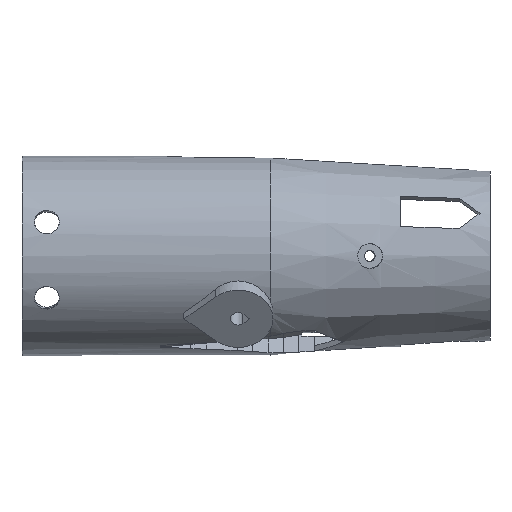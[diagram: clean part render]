
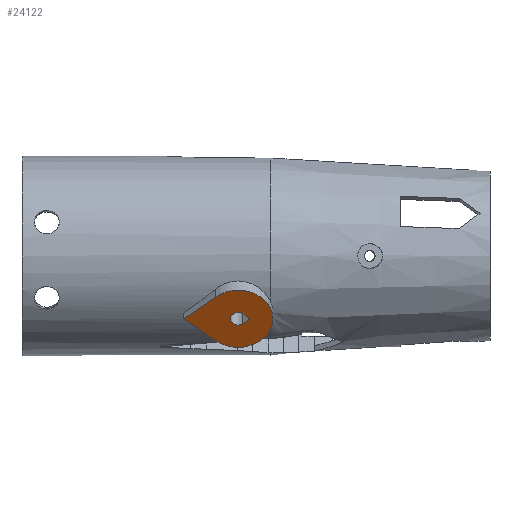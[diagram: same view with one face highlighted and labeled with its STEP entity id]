
A CAD part, front view. The second image highlights one B-rep face of the part: STEP entity #24122.
In plain terms, the highlighted planar face has unit normal (0, -0.819, -0.574).
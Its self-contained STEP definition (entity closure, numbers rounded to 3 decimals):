
#1912 = CYLINDRICAL_SURFACE('',#1913,7.);
#1913 = AXIS2_PLACEMENT_3D('',#1914,#1915,#1916);
#1914 = CARTESIAN_POINT('',(413.4,-9.83,-6.883));
#1915 = DIRECTION('',(-0.,-0.819,-0.574));
#1916 = DIRECTION('',(-0.,-0.574,0.819));
#1983 = PLANE('',#1984);
#1984 = AXIS2_PLACEMENT_3D('',#1985,#1986,#1987);
#1985 = CARTESIAN_POINT('',(408.9,-6.754,
    -11.275));
#1986 = DIRECTION('',(0.643,-0.439,0.628));
#1987 = DIRECTION('',(0.766,0.369,-0.527));
#2015 = PLANE('',#2016);
#2016 = AXIS2_PLACEMENT_3D('',#2017,#2018,#2019);
#2017 = CARTESIAN_POINT('',(402.51,-9.83,
    -6.883));
#2018 = DIRECTION('',(0.643,0.439,-0.628));
#2019 = DIRECTION('',(-0.766,0.369,-0.527));
#23985 = CYLINDRICAL_SURFACE('',#23986,1.525);
#23986 = AXIS2_PLACEMENT_3D('',#23987,#23988,#23989);
#23987 = CARTESIAN_POINT('',(413.4,-4.096,-2.868));
#23988 = DIRECTION('',(-0.,-0.819,-0.574));
#23989 = DIRECTION('',(-0.,-0.574,0.819));
#24013 = PLANE('',#24014);
#24014 = AXIS2_PLACEMENT_3D('',#24015,#24016,#24017);
#24015 = CARTESIAN_POINT('',(414.38,-3.426,
    -3.825));
#24016 = DIRECTION('',(0.643,0.439,-0.628));
#24017 = DIRECTION('',(-0.766,0.369,-0.527));
#24038 = PLANE('',#24039);
#24039 = AXIS2_PLACEMENT_3D('',#24040,#24041,#24042);
#24040 = CARTESIAN_POINT('',(415.772,-4.096,
    -2.868));
#24041 = DIRECTION('',(0.643,-0.439,0.628));
#24042 = DIRECTION('',(0.766,0.369,-0.527));
#24054 = VERTEX_POINT('',#24055);
#24055 = CARTESIAN_POINT('',(415.772,-18.021,
    -12.619));
#24076 = EDGE_CURVE('',#24054,#24077,#24079,.T.);
#24077 = VERTEX_POINT('',#24078);
#24078 = CARTESIAN_POINT('',(414.38,-18.691,
    -11.662));
#24079 = SURFACE_CURVE('',#24080,(#24084,#24090),.PCURVE_S1.);
#24080 = LINE('',#24081,#24082);
#24081 = CARTESIAN_POINT('',(415.076,-18.356,
    -12.14));
#24082 = VECTOR('',#24083,1.);
#24083 = DIRECTION('',(-0.766,-0.369,0.527));
#24084 = PCURVE('',#24038,#24085);
#24085 = DEFINITIONAL_REPRESENTATION('',(#24086),#24089);
#24086 = B_SPLINE_CURVE_WITH_KNOTS('',1,(#24087,#24088),.UNSPECIFIED.,
  .F.,.F.,(2,2),(-0.909,0.909),
  .PIECEWISE_BEZIER_KNOTS.);
#24087 = CARTESIAN_POINT('',(0.,-17.));
#24088 = CARTESIAN_POINT('',(-1.817,-17.));
#24089 = ( GEOMETRIC_REPRESENTATION_CONTEXT(2) 
PARAMETRIC_REPRESENTATION_CONTEXT() REPRESENTATION_CONTEXT('2D SPACE',''
  ) );
#24090 = PCURVE('',#24091,#24096);
#24091 = PLANE('',#24092);
#24092 = AXIS2_PLACEMENT_3D('',#24093,#24094,#24095);
#24093 = CARTESIAN_POINT('',(413.4,-18.021,-12.619));
#24094 = DIRECTION('',(-0.,-0.819,-0.574));
#24095 = DIRECTION('',(0.,0.574,-0.819));
#24096 = DEFINITIONAL_REPRESENTATION('',(#24097),#24101);
#24097 = LINE('',#24098,#24099);
#24098 = CARTESIAN_POINT('',(-0.584,1.676));
#24099 = VECTOR('',#24100,1.);
#24100 = DIRECTION('',(-0.643,-0.766));
#24101 = ( GEOMETRIC_REPRESENTATION_CONTEXT(2) 
PARAMETRIC_REPRESENTATION_CONTEXT() REPRESENTATION_CONTEXT('2D SPACE',''
  ) );
#24122 = ADVANCED_FACE('',(#24123,#24199),#24091,.T.);
#24123 = FACE_BOUND('',#24124,.F.);
#24124 = EDGE_LOOP('',(#24125,#24155,#24178));
#24125 = ORIENTED_EDGE('',*,*,#24126,.T.);
#24126 = EDGE_CURVE('',#24127,#24129,#24131,.T.);
#24127 = VERTEX_POINT('',#24128);
#24128 = CARTESIAN_POINT('',(408.9,-21.097,
    -8.226));
#24129 = VERTEX_POINT('',#24130);
#24130 = CARTESIAN_POINT('',(408.9,-14.946,
    -17.011));
#24131 = SURFACE_CURVE('',#24132,(#24137,#24148),.PCURVE_S1.);
#24132 = CIRCLE('',#24133,7.);
#24133 = AXIS2_PLACEMENT_3D('',#24134,#24135,#24136);
#24134 = CARTESIAN_POINT('',(413.4,-18.021,-12.619));
#24135 = DIRECTION('',(0.,0.819,0.574));
#24136 = DIRECTION('',(-0.643,-0.439,0.628));
#24137 = PCURVE('',#24091,#24138);
#24138 = DEFINITIONAL_REPRESENTATION('',(#24139),#24147);
#24139 = ( BOUNDED_CURVE() B_SPLINE_CURVE(2,(#24140,#24141,#24142,#24143
    ,#24144,#24145,#24146),.UNSPECIFIED.,.T.,.F.) 
B_SPLINE_CURVE_WITH_KNOTS((1,2,2,2,2,1),(-2.094,0.,
    2.094,4.189,6.283,8.378),
.UNSPECIFIED.) CURVE() GEOMETRIC_REPRESENTATION_ITEM() 
RATIONAL_B_SPLINE_CURVE((1.,0.5,1.,0.5,1.,0.5,1.)) REPRESENTATION_ITEM(
  '') );
#24140 = CARTESIAN_POINT('',(-5.362,-4.5));
#24141 = CARTESIAN_POINT('',(-13.156,4.788));
#24142 = CARTESIAN_POINT('',(-1.216,6.894));
#24143 = CARTESIAN_POINT('',(10.725,8.999));
#24144 = CARTESIAN_POINT('',(6.578,-2.394));
#24145 = CARTESIAN_POINT('',(2.431,-13.787));
#24146 = CARTESIAN_POINT('',(-5.362,-4.5));
#24147 = ( GEOMETRIC_REPRESENTATION_CONTEXT(2) 
PARAMETRIC_REPRESENTATION_CONTEXT() REPRESENTATION_CONTEXT('2D SPACE',''
  ) );
#24148 = PCURVE('',#1912,#24149);
#24149 = DEFINITIONAL_REPRESENTATION('',(#24150),#24154);
#24150 = LINE('',#24151,#24152);
#24151 = CARTESIAN_POINT('',(-5.585,10.));
#24152 = VECTOR('',#24153,1.);
#24153 = DIRECTION('',(-1.,0.));
#24154 = ( GEOMETRIC_REPRESENTATION_CONTEXT(2) 
PARAMETRIC_REPRESENTATION_CONTEXT() REPRESENTATION_CONTEXT('2D SPACE',''
  ) );
#24155 = ORIENTED_EDGE('',*,*,#24156,.T.);
#24156 = EDGE_CURVE('',#24129,#24157,#24159,.T.);
#24157 = VERTEX_POINT('',#24158);
#24158 = CARTESIAN_POINT('',(402.51,-18.021,
    -12.619));
#24159 = SURFACE_CURVE('',#24160,(#24164,#24171),.PCURVE_S1.);
#24160 = LINE('',#24161,#24162);
#24161 = CARTESIAN_POINT('',(408.9,-14.946,
    -17.011));
#24162 = VECTOR('',#24163,1.);
#24163 = DIRECTION('',(-0.766,-0.369,0.527));
#24164 = PCURVE('',#24091,#24165);
#24165 = DEFINITIONAL_REPRESENTATION('',(#24166),#24170);
#24166 = LINE('',#24167,#24168);
#24167 = CARTESIAN_POINT('',(5.362,-4.5));
#24168 = VECTOR('',#24169,1.);
#24169 = DIRECTION('',(-0.643,-0.766));
#24170 = ( GEOMETRIC_REPRESENTATION_CONTEXT(2) 
PARAMETRIC_REPRESENTATION_CONTEXT() REPRESENTATION_CONTEXT('2D SPACE',''
  ) );
#24171 = PCURVE('',#1983,#24172);
#24172 = DEFINITIONAL_REPRESENTATION('',(#24173),#24177);
#24173 = LINE('',#24174,#24175);
#24174 = CARTESIAN_POINT('',(0.,-10.));
#24175 = VECTOR('',#24176,1.);
#24176 = DIRECTION('',(-1.,0.));
#24177 = ( GEOMETRIC_REPRESENTATION_CONTEXT(2) 
PARAMETRIC_REPRESENTATION_CONTEXT() REPRESENTATION_CONTEXT('2D SPACE',''
  ) );
#24178 = ORIENTED_EDGE('',*,*,#24179,.T.);
#24179 = EDGE_CURVE('',#24157,#24127,#24180,.T.);
#24180 = SURFACE_CURVE('',#24181,(#24185,#24192),.PCURVE_S1.);
#24181 = LINE('',#24182,#24183);
#24182 = CARTESIAN_POINT('',(402.51,-18.021,
    -12.619));
#24183 = VECTOR('',#24184,1.);
#24184 = DIRECTION('',(0.766,-0.369,0.527));
#24185 = PCURVE('',#24091,#24186);
#24186 = DEFINITIONAL_REPRESENTATION('',(#24187),#24191);
#24187 = LINE('',#24188,#24189);
#24188 = CARTESIAN_POINT('',(-0.,-10.89));
#24189 = VECTOR('',#24190,1.);
#24190 = DIRECTION('',(-0.643,0.766));
#24191 = ( GEOMETRIC_REPRESENTATION_CONTEXT(2) 
PARAMETRIC_REPRESENTATION_CONTEXT() REPRESENTATION_CONTEXT('2D SPACE',''
  ) );
#24192 = PCURVE('',#2015,#24193);
#24193 = DEFINITIONAL_REPRESENTATION('',(#24194),#24198);
#24194 = LINE('',#24195,#24196);
#24195 = CARTESIAN_POINT('',(0.,-10.));
#24196 = VECTOR('',#24197,1.);
#24197 = DIRECTION('',(-1.,0.));
#24198 = ( GEOMETRIC_REPRESENTATION_CONTEXT(2) 
PARAMETRIC_REPRESENTATION_CONTEXT() REPRESENTATION_CONTEXT('2D SPACE',''
  ) );
#24199 = FACE_BOUND('',#24200,.F.);
#24200 = EDGE_LOOP('',(#24201,#24229,#24249));
#24201 = ORIENTED_EDGE('',*,*,#24202,.F.);
#24202 = EDGE_CURVE('',#24203,#24077,#24205,.T.);
#24203 = VERTEX_POINT('',#24204);
#24204 = CARTESIAN_POINT('',(414.38,-17.351,
    -13.576));
#24205 = SURFACE_CURVE('',#24206,(#24211,#24222),.PCURVE_S1.);
#24206 = CIRCLE('',#24207,1.525);
#24207 = AXIS2_PLACEMENT_3D('',#24208,#24209,#24210);
#24208 = CARTESIAN_POINT('',(413.4,-18.021,-12.619));
#24209 = DIRECTION('',(0.,0.819,0.574)
  );
#24210 = DIRECTION('',(0.643,0.439,-0.628));
#24211 = PCURVE('',#24091,#24212);
#24212 = DEFINITIONAL_REPRESENTATION('',(#24213),#24221);
#24213 = ( BOUNDED_CURVE() B_SPLINE_CURVE(2,(#24214,#24215,#24216,#24217
    ,#24218,#24219,#24220),.UNSPECIFIED.,.T.,.F.) 
B_SPLINE_CURVE_WITH_KNOTS((1,2,2,2,2,1),(-2.094,0.,
    2.094,4.189,6.283,8.378),
.UNSPECIFIED.) CURVE() GEOMETRIC_REPRESENTATION_ITEM() 
RATIONAL_B_SPLINE_CURVE((1.,0.5,1.,0.5,1.,0.5,1.)) REPRESENTATION_ITEM(
  '') );
#24214 = CARTESIAN_POINT('',(1.168,0.98));
#24215 = CARTESIAN_POINT('',(2.866,-1.043));
#24216 = CARTESIAN_POINT('',(0.265,-1.502));
#24217 = CARTESIAN_POINT('',(-2.336,-1.961));
#24218 = CARTESIAN_POINT('',(-1.433,0.522));
#24219 = CARTESIAN_POINT('',(-0.53,3.004));
#24220 = CARTESIAN_POINT('',(1.168,0.98));
#24221 = ( GEOMETRIC_REPRESENTATION_CONTEXT(2) 
PARAMETRIC_REPRESENTATION_CONTEXT() REPRESENTATION_CONTEXT('2D SPACE',''
  ) );
#24222 = PCURVE('',#23985,#24223);
#24223 = DEFINITIONAL_REPRESENTATION('',(#24224),#24228);
#24224 = LINE('',#24225,#24226);
#24225 = CARTESIAN_POINT('',(-2.443,17.));
#24226 = VECTOR('',#24227,1.);
#24227 = DIRECTION('',(-1.,-0.));
#24228 = ( GEOMETRIC_REPRESENTATION_CONTEXT(2) 
PARAMETRIC_REPRESENTATION_CONTEXT() REPRESENTATION_CONTEXT('2D SPACE',''
  ) );
#24229 = ORIENTED_EDGE('',*,*,#24230,.T.);
#24230 = EDGE_CURVE('',#24203,#24054,#24231,.T.);
#24231 = SURFACE_CURVE('',#24232,(#24236,#24243),.PCURVE_S1.);
#24232 = LINE('',#24233,#24234);
#24233 = CARTESIAN_POINT('',(414.38,-17.351,
    -13.576));
#24234 = VECTOR('',#24235,1.);
#24235 = DIRECTION('',(0.766,-0.369,0.527));
#24236 = PCURVE('',#24091,#24237);
#24237 = DEFINITIONAL_REPRESENTATION('',(#24238),#24242);
#24238 = LINE('',#24239,#24240);
#24239 = CARTESIAN_POINT('',(1.168,0.98));
#24240 = VECTOR('',#24241,1.);
#24241 = DIRECTION('',(-0.643,0.766));
#24242 = ( GEOMETRIC_REPRESENTATION_CONTEXT(2) 
PARAMETRIC_REPRESENTATION_CONTEXT() REPRESENTATION_CONTEXT('2D SPACE',''
  ) );
#24243 = PCURVE('',#24013,#24244);
#24244 = DEFINITIONAL_REPRESENTATION('',(#24245),#24248);
#24245 = B_SPLINE_CURVE_WITH_KNOTS('',1,(#24246,#24247),.UNSPECIFIED.,
  .F.,.F.,(2,2),(0.,1.817),
  .PIECEWISE_BEZIER_KNOTS.);
#24246 = CARTESIAN_POINT('',(0.,-17.));
#24247 = CARTESIAN_POINT('',(-1.817,-17.));
#24248 = ( GEOMETRIC_REPRESENTATION_CONTEXT(2) 
PARAMETRIC_REPRESENTATION_CONTEXT() REPRESENTATION_CONTEXT('2D SPACE',''
  ) );
#24249 = ORIENTED_EDGE('',*,*,#24076,.T.);
